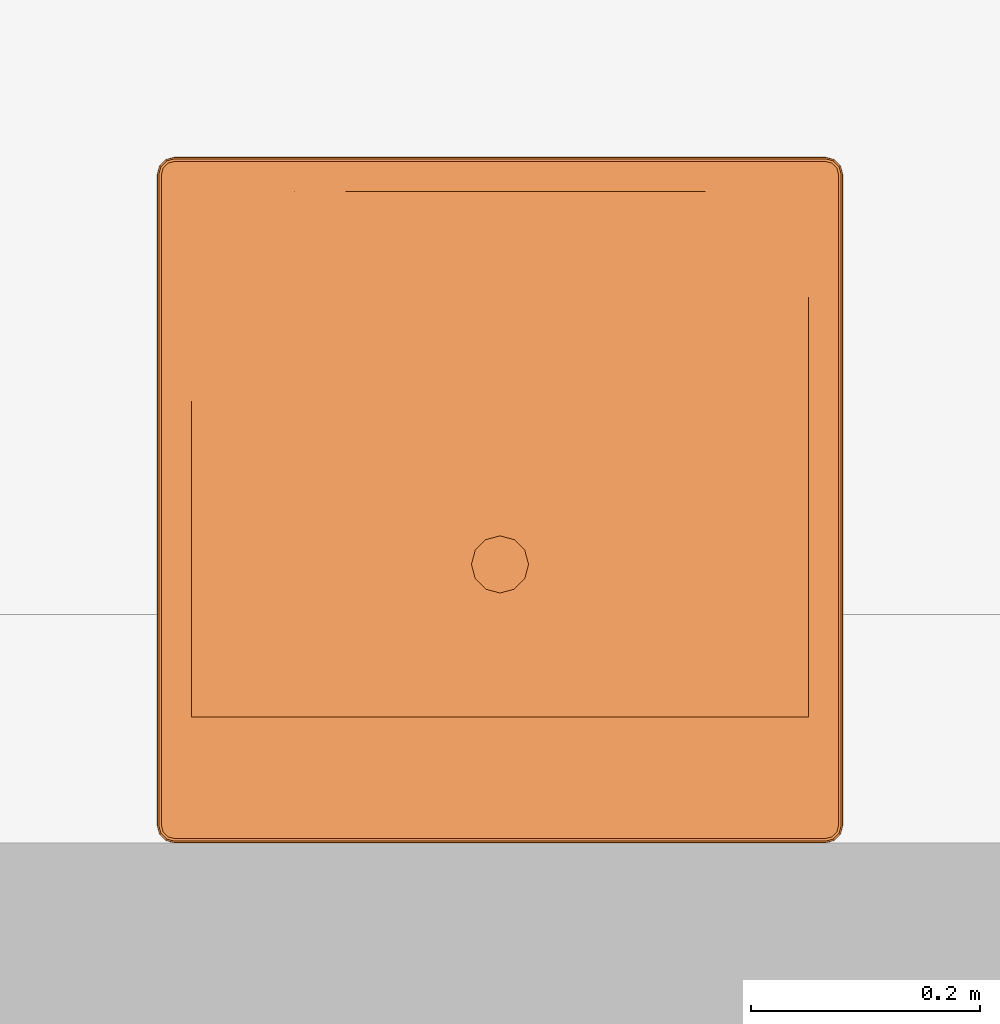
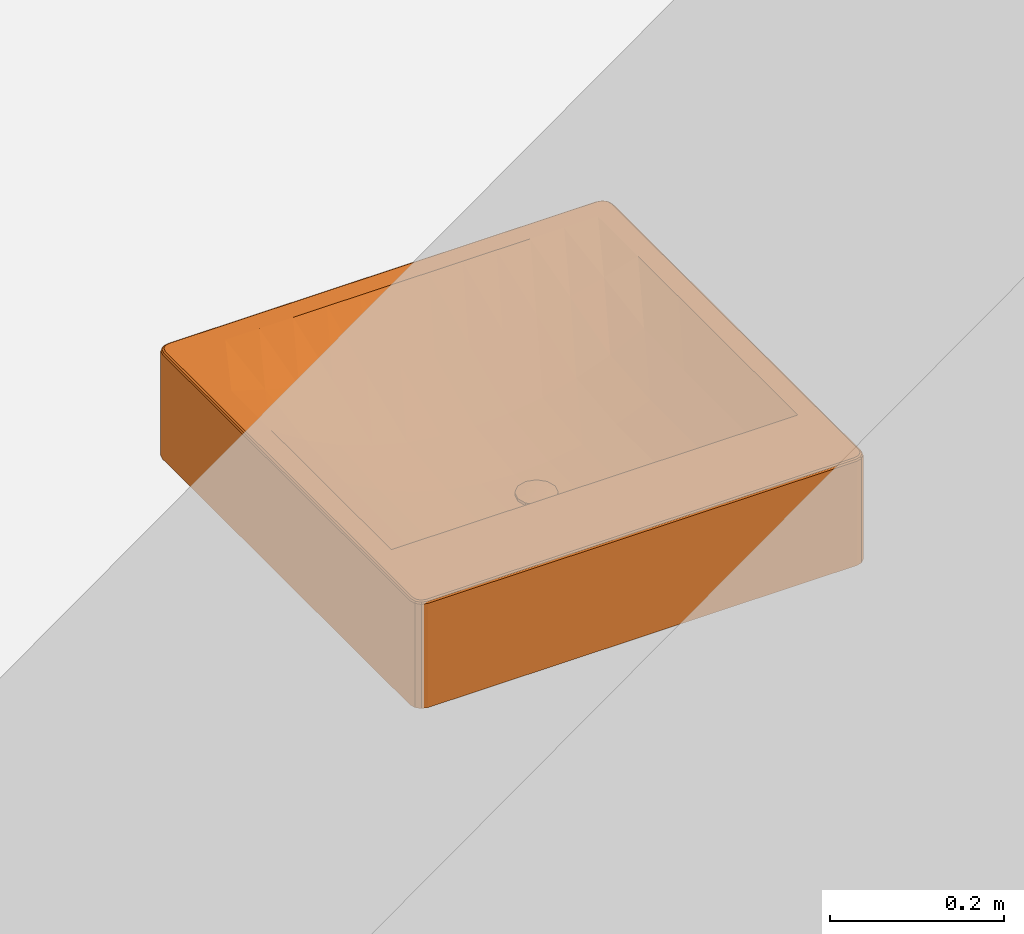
# One storey, part 63 of 64: 1 proxy.
"""IFC2X3 building model written with IfcOpenShell, lengths in metres."""

from ifc_helpers import new_model, entity, si_unit, converted_unit, derived_unit, direction, frame, origin, place, context, subcontext, project, spatial, faceted_brep, source, transform, mapped, material, type_object, type_shapes, element, save


model = new_model("IFC2X3")

# Units and contexts
model_context = context("Model", 3, precision=1e-05, world=origin(), true_north=direction((6.123031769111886e-17, 1.0)))
body_context = subcontext(model_context, "Body", "Model", "MODEL_VIEW")
ifc_project = project(units=[si_unit("LENGTHUNIT", "METRE"), si_unit("AREAUNIT", "SQUARE_METRE"), si_unit("VOLUMEUNIT", "CUBIC_METRE"), converted_unit("PLANEANGLEUNIT", "DEGREE", entity("IfcRatioMeasure", 0.017453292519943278), si_unit("PLANEANGLEUNIT", "RADIAN"), dimensions=[0, 0, 0, 0, 0, 0, 0]), si_unit("MASSUNIT", "GRAM", prefix="KILO"), derived_unit("MASSDENSITYUNIT", [(si_unit("MASSUNIT", "GRAM", prefix="KILO"), 1), (si_unit("LENGTHUNIT", "METRE"), -3)]), derived_unit("MOMENTOFINERTIAUNIT", [(si_unit("LENGTHUNIT", "METRE"), 4)]), si_unit("TIMEUNIT", "SECOND"), si_unit("FREQUENCYUNIT", "HERTZ"), si_unit("THERMODYNAMICTEMPERATUREUNIT", "DEGREE_CELSIUS"), derived_unit("THERMALTRANSMITTANCEUNIT", [(si_unit("MASSUNIT", "GRAM", prefix="KILO"), 1), (si_unit("THERMODYNAMICTEMPERATUREUNIT", "KELVIN"), -1), (si_unit("TIMEUNIT", "SECOND"), -3)]), derived_unit("THERMALCONDUCTANCEUNIT", [(si_unit("MASSUNIT", "GRAM", prefix="KILO"), 1), (si_unit("LENGTHUNIT", "METRE"), 1), (si_unit("THERMODYNAMICTEMPERATUREUNIT", "KELVIN"), -1), (si_unit("TIMEUNIT", "SECOND"), -3)]), derived_unit("VOLUMETRICFLOWRATEUNIT", [(si_unit("LENGTHUNIT", "METRE"), 3), (si_unit("TIMEUNIT", "SECOND"), -1)]), derived_unit("MASSFLOWRATEUNIT", [(si_unit("MASSUNIT", "GRAM", prefix="KILO"), 1), (si_unit("TIMEUNIT", "SECOND"), -1)]), derived_unit("ROTATIONALFREQUENCYUNIT", [(si_unit("TIMEUNIT", "SECOND"), -1)]), si_unit("ELECTRICCURRENTUNIT", "AMPERE"), si_unit("ELECTRICVOLTAGEUNIT", "VOLT"), si_unit("POWERUNIT", "WATT"), si_unit("FORCEUNIT", "NEWTON", prefix="KILO"), si_unit("ILLUMINANCEUNIT", "LUX"), si_unit("LUMINOUSFLUXUNIT", "LUMEN"), si_unit("LUMINOUSINTENSITYUNIT", "CANDELA"), derived_unit("USERDEFINED", [(si_unit("MASSUNIT", "GRAM", prefix="KILO"), -1), (si_unit("LENGTHUNIT", "METRE"), -2), (si_unit("TIMEUNIT", "SECOND"), 3), (si_unit("LUMINOUSFLUXUNIT", "LUMEN"), 1)]), derived_unit("USERDEFINED", [(si_unit("MASSUNIT", "GRAM", prefix="KILO"), 1), (si_unit("LENGTHUNIT", "METRE"), 3), (si_unit("TIMEUNIT", "SECOND"), -3), (si_unit("ELECTRICCURRENTUNIT", "AMPERE"), -2)]), derived_unit("USERDEFINED", [(si_unit("LENGTHUNIT", "METRE"), 2), (si_unit("TIMEUNIT", "SECOND"), -2)]), derived_unit("SOUNDPOWERUNIT", [(si_unit("MASSUNIT", "GRAM", prefix="KILO"), 1), (si_unit("LENGTHUNIT", "METRE"), 2), (si_unit("TIMEUNIT", "SECOND"), -3)]), derived_unit("SOUNDPRESSUREUNIT", [(si_unit("MASSUNIT", "GRAM", prefix="KILO"), 1), (si_unit("LENGTHUNIT", "METRE"), -1), (si_unit("TIMEUNIT", "SECOND"), -2)]), derived_unit("LINEARVELOCITYUNIT", [(si_unit("LENGTHUNIT", "METRE"), 1), (si_unit("TIMEUNIT", "SECOND"), -1)]), si_unit("PRESSUREUNIT", "PASCAL"), derived_unit("USERDEFINED", [(si_unit("LENGTHUNIT", "METRE"), -2), (si_unit("MASSUNIT", "GRAM", prefix="KILO"), 1), (si_unit("TIMEUNIT", "SECOND"), -2)]), derived_unit("LINEARFORCEUNIT", [(si_unit("MASSUNIT", "GRAM", prefix="KILO"), 1), (si_unit("LENGTHUNIT", "METRE"), 1), (si_unit("TIMEUNIT", "SECOND"), -2), (si_unit("LENGTHUNIT", "METRE"), -1)]), derived_unit("PLANARFORCEUNIT", [(si_unit("MASSUNIT", "GRAM", prefix="KILO"), 1), (si_unit("LENGTHUNIT", "METRE"), 1), (si_unit("TIMEUNIT", "SECOND"), -2), (si_unit("LENGTHUNIT", "METRE"), -2)]), derived_unit("SPECIFICHEATCAPACITYUNIT", [(si_unit("LENGTHUNIT", "METRE"), 2), (si_unit("TIMEUNIT", "SECOND"), -2), (si_unit("THERMODYNAMICTEMPERATUREUNIT", "KELVIN"), -1)]), derived_unit("VAPORPERMEABILITYUNIT", [(si_unit("TIMEUNIT", "SECOND"), 1), (si_unit("LENGTHUNIT", "METRE"), -1)]), derived_unit("DYNAMICVISCOSITYUNIT", [(si_unit("MASSUNIT", "GRAM", prefix="KILO"), 1), (si_unit("LENGTHUNIT", "METRE"), -1), (si_unit("TIMEUNIT", "SECOND"), -1)]), derived_unit("THERMALEXPANSIONCOEFFICIENTUNIT", [(si_unit("THERMODYNAMICTEMPERATUREUNIT", "KELVIN"), -1)])], contexts=[model_context])

# Site, building, storey
site_placement = place(None, origin())
site = spatial("IfcSite", under=ifc_project, at=site_placement, Name="Default", CompositionType="ELEMENT")
building_placement = place(site_placement, origin())
building = spatial("IfcBuilding", under=site, at=building_placement, CompositionType="ELEMENT")
storey_placement = place(building_placement, origin())
storey = spatial("IfcBuildingStorey", under=building, at=storey_placement, Name="REZ-DE-CHAUSSÉE", CompositionType="ELEMENT", Elevation=0.0)

# Proxy
ifc_material = material(Name="Déco - Céramique / Porcelaine")
building_element_proxy_type = type_object("IfcBuildingElementProxyType", Name="Symb-0001", PredefinedType="NOTDEFINED", material=ifc_material)
shared_shape = source(origin(), body_context, "Body", "Brep", [
    faceted_brep([(0.015000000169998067, 0.6000000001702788, 0.0), (0.5850000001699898, 0.6000000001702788, 0.0), (0.5925000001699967, 0.5979903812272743, 0.0), (0.5979903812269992, 0.5925000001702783, 0.0), (0.6000000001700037, 0.5850000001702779, 0.0), (0.6000000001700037, 0.015000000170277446, 0.0), (0.5979903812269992, 0.007500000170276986, 0.0), (0.5925000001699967, 0.0020096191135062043, 0.0), (0.5850000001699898, 0.0, 0.0), (0.015000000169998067, 0.0, 0.0), (0.007500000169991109, 0.0020096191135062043, 0.0), (0.002009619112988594, 0.007500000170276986, 0.0), (0.0, 0.015000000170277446, 0.0), (0.0, 0.5850000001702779, 0.0), (0.002009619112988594, 0.5925000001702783, 0.0), (0.007500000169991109, 0.5979903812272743, 0.0), (0.5700000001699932, 0.5700000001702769, 0.0), (0.030000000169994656, 0.5700000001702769, 0.0), (0.030000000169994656, 0.11000000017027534, 0.0), (0.5700000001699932, 0.11000000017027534, 0.0), (0.015000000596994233, 0.6000000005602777, 0.1450000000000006), (0.5849999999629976, 0.6000000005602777, 0.1450000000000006), (0.5925000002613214, 0.5979903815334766, 0.1450000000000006), (0.5979903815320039, 0.5925000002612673, 0.1450000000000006), (0.6000000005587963, 0.5849999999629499, 0.1450000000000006), (0.6000000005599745, 0.015000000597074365, 0.1450000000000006), (0.5979903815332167, 0.007500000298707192, 0.1450000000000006), (0.5925000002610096, 0.0020096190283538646, 0.1450000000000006), (0.5849999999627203, 0.0, 0.1450000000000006), (0.015000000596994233, 0.0, 0.1450000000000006), (0.0075000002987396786, 0.002009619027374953, 0.1450000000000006), (0.0020096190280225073, 0.007500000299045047, 0.1450000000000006), (0.0, 0.015000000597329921, 0.1450000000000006), (0.0, 0.5849999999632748, 0.1450000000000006), (0.0020096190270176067, 0.592500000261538, 0.1450000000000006), (0.007500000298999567, 0.5979903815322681, 0.1450000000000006), (0.5700000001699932, 0.5700000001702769, 0.14999999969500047), (0.030000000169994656, 0.5700000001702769, 0.14999999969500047), (0.030000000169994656, 0.11000000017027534, 0.14999999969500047), (0.5700000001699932, 0.11000000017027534, 0.14999999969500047), (0.015022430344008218, 0.5998296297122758, 0.14629409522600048), (0.5849775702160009, 0.5998296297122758, 0.14629409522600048), (0.5924118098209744, 0.597837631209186, 0.1462940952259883), (0.5978376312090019, 0.592411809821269, 0.14629409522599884), (0.5998296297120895, 0.5849775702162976, 0.14629409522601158), (0.5998296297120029, 0.015022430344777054, 0.14629409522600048), (0.5978376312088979, 0.007588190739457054, 0.1462940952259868), (0.5924118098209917, 0.00216236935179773, 0.1462940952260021), (0.5849775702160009, 0.0001703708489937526, 0.1462940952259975), (0.015022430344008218, 0.00017037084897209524, 0.14629409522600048), (0.007588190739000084, 0.0021623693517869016, 0.14629409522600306), (0.0021623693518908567, 0.007588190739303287, 0.14629409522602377), (0.00017037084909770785, 0.015022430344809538, 0.1462940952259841), (0.0001703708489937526, 0.5849775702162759, 0.14629409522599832), (0.002162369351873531, 0.5924118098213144, 0.14629409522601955), (0.007588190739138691, 0.5978376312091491, 0.14629409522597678), (0.5843417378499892, 0.004999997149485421, 0.14999999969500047), (0.5899118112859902, 0.006492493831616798, 0.14999999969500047), (0.5935075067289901, 0.01008818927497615, 0.14999999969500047), (0.5950000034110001, 0.015658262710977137, 0.14999999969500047), (0.5950000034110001, 0.5843417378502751, 0.14999999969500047), (0.5935075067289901, 0.5899118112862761, 0.14999999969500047), (0.5899118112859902, 0.593507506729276, 0.14999999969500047), (0.5843417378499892, 0.5950000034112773, 0.14999999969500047), (0.01565826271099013, 0.5950000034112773, 0.14999999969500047), (0.010088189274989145, 0.593507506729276, 0.14999999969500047), (0.00649249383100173, 0.5899118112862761, 0.14999999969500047), (0.004999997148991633, 0.5843417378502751, 0.14999999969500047), (0.004999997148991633, 0.015658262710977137, 0.14999999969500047), (0.00649249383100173, 0.01008818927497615, 0.14999999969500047), (0.010088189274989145, 0.006492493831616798, 0.14999999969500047), (0.01565826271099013, 0.004999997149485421, 0.14999999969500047), (0.01519280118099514, 0.598535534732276, 0.14853553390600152), (0.5848071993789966, 0.598535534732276, 0.14853553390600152), (0.5917419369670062, 0.5966773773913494, 0.1485355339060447), (0.5966773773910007, 0.591741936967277, 0.1485355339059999), (0.598535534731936, 0.5848071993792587, 0.14853553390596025), (0.5985355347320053, 0.015192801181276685, 0.14853553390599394), (0.5966773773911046, 0.008258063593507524, 0.14853553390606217), (0.5917419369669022, 0.003322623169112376, 0.14853553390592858), (0.5848071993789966, 0.0014644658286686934, 0.1485355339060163), (0.01519280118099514, 0.0014644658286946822, 0.14853553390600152), (0.008258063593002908, 0.003322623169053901, 0.14853553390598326), (0.0033226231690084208, 0.008258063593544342, 0.14853553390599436), (0.0014644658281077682, 0.015192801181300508, 0.1485355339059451), (0.001464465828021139, 0.584807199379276, 0.14853553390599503), (0.0033226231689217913, 0.591741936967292, 0.14853553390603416), (0.008258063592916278, 0.5966773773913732, 0.14853553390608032), (0.5905816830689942, 0.005332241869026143, 0.14982962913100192), (0.584512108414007, 0.003705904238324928, 0.1498296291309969), (0.5946677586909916, 0.009418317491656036, 0.1498296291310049), (0.5962940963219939, 0.015487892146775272, 0.14982962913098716), (0.5962940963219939, 0.5845121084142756, 0.14982962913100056), (0.5946677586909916, 0.5905816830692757, 0.14982962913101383), (0.5905816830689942, 0.5946677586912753, 0.1498296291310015), (0.584512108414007, 0.5962940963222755, 0.14982962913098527), (0.015487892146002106, 0.5962940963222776, 0.1498296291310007), (0.009418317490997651, 0.5946677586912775, 0.14982962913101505), (0.0053322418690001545, 0.5905816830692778, 0.14982962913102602), (0.003705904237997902, 0.5845121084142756, 0.1498296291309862), (0.003705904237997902, 0.015487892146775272, 0.14982962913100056), (0.0053322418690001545, 0.009418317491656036, 0.14982962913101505), (0.009418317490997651, 0.005332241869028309, 0.14982962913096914), (0.015487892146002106, 0.003705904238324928, 0.14982962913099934), (0.28750000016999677, 0.26527363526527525, 0.0), (0.2783493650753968, 0.2561230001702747, 0.0), (0.27500000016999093, 0.24362300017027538, 0.0), (0.2783493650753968, 0.23112300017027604, 0.0), (0.28750000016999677, 0.22197236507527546, 0.0), (0.30000000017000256, 0.21862300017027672, 0.0), (0.3125000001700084, 0.22197236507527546, 0.0), (0.3216506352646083, 0.23112300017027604, 0.0), (0.3250000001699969, 0.24362300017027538, 0.0), (0.3216506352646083, 0.2561230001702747, 0.0), (0.3125000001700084, 0.26527363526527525, 0.0), (0.30000000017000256, 0.26862300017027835, 0.0), (0.5700000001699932, 0.3860000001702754, 0.15000000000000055), (0.5700000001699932, 0.29400000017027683, 0.15000000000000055), (0.5700000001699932, 0.20200000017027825, 0.15000000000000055), (0.5700000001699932, 0.11000000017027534, 0.15000000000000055), (0.5700000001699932, 0.5700000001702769, 0.15000000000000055), (0.5700000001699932, 0.4780000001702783, 0.15000000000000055), (0.1650000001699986, 0.11000000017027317, 0.0726004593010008), (0.12000000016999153, 0.11000000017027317, 0.09112317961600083), (0.07500000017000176, 0.11000000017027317, 0.11638328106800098), (0.030000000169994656, 0.11000000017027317, 0.1500000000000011), (0.525000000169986, 0.11000000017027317, 0.1163832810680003), (0.48000000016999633, 0.11000000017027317, 0.09112317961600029), (0.43500000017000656, 0.11000000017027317, 0.07260045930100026), (0.3900000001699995, 0.11000000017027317, 0.05988876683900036), (0.3450000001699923, 0.11000000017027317, 0.05244994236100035), (0.30000000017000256, 0.11000000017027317, 0.050000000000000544), (0.25500000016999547, 0.11000000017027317, 0.052449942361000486), (0.21000000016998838, 0.11000000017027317, 0.05988876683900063), (0.030000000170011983, 0.29400000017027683, 0.15000000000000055), (0.030000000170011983, 0.3860000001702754, 0.15000000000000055), (0.030000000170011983, 0.4780000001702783, 0.15000000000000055), (0.030000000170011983, 0.5700000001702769, 0.15000000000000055), (0.030000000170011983, 0.20200000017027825, 0.15000000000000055), (0.43500000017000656, 0.5700000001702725, 0.15000000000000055), (0.48000000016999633, 0.5700000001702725, 0.15000000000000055), (0.525000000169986, 0.5700000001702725, 0.15000000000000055), (0.07500000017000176, 0.5700000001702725, 0.15000000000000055), (0.12000000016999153, 0.5700000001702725, 0.15000000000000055), (0.1650000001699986, 0.5700000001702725, 0.15000000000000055), (0.21000000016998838, 0.5700000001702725, 0.15000000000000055), (0.25500000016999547, 0.5700000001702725, 0.15000000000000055), (0.30000000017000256, 0.5700000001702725, 0.15000000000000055), (0.3450000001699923, 0.5700000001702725, 0.15000000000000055), (0.3900000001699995, 0.5700000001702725, 0.15000000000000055), (0.28750000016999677, 0.26527363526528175, 0.050680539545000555), (0.2783493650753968, 0.25612300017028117, 0.05117872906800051), (0.27500000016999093, 0.2436230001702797, 0.05136107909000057), (0.2783493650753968, 0.2311230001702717, 0.05117872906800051), (0.28750000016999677, 0.22197236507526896, 0.050680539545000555), (0.30000000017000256, 0.21862300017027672, 0.050000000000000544), (0.3125000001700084, 0.22197236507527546, 0.050680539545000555), (0.3216506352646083, 0.23112300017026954, 0.05117872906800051), (0.3250000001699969, 0.24362300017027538, 0.05136107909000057), (0.3216506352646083, 0.2561230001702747, 0.05117872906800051), (0.3125000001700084, 0.26527363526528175, 0.050680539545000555), (0.30000000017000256, 0.26862300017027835, 0.050000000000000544), (0.525000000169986, 0.29400000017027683, 0.11638328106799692), (0.525000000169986, 0.20200000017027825, 0.11638328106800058), (0.525000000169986, 0.4780000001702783, 0.13591688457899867), (0.525000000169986, 0.3860000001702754, 0.12084337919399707), (0.12000000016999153, 0.20200000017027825, 0.09112317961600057), (0.1650000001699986, 0.20200000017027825, 0.07260045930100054), (0.07500000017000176, 0.20200000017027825, 0.11638328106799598), (0.48000000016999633, 0.20200000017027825, 0.09112317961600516), (0.43500000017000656, 0.20200000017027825, 0.07260045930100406), (0.3900000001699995, 0.20200000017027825, 0.0598887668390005), (0.3450000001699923, 0.20200000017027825, 0.052449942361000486), (0.30000000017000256, 0.20200000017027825, 0.05), (0.25500000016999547, 0.20200000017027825, 0.052449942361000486), (0.21000000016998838, 0.20200000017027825, 0.0598887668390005), (0.07500000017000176, 0.3860000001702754, 0.12084337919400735), (0.07500000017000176, 0.4780000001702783, 0.13591688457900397), (0.07500000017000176, 0.29400000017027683, 0.11638328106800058), (0.43500000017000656, 0.4780000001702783, 0.11586509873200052), (0.48000000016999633, 0.4780000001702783, 0.12457661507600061), (0.12000000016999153, 0.4780000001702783, 0.12457661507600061), (0.1650000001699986, 0.4780000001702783, 0.11586509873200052), (0.21000000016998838, 0.4780000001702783, 0.10969896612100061), (0.25500000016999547, 0.4780000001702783, 0.10602133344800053), (0.30000000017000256, 0.4780000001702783, 0.10479908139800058), (0.3450000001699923, 0.4780000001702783, 0.10602133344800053), (0.3900000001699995, 0.4780000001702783, 0.10969896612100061), (0.25500000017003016, 0.29400000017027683, 0.052449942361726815), (0.30000000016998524, 0.29400000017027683, 0.04999999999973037), (0.3450000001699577, 0.29400000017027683, 0.05244994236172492), (0.48000000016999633, 0.29400000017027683, 0.09112317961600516), (0.12000000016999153, 0.29400000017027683, 0.09112317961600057), (0.1650000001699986, 0.29400000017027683, 0.07260045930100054), (0.43500000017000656, 0.29400000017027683, 0.07260045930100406), (0.3900000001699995, 0.29400000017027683, 0.0598887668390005), (0.21000000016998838, 0.29400000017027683, 0.0598887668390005), (0.30000000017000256, 0.3860000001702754, 0.06146040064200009), (0.3450000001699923, 0.3860000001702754, 0.06368647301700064), (0.48000000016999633, 0.3860000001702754, 0.09849465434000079), (0.1650000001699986, 0.3860000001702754, 0.08190448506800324), (0.12000000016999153, 0.3860000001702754, 0.09849465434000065), (0.43500000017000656, 0.3860000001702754, 0.08190448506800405), (0.3900000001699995, 0.3860000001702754, 0.07043120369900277), (0.25500000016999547, 0.3860000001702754, 0.0636864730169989), (0.21000000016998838, 0.3860000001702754, 0.070431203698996), (0.2783493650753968, 0.2561230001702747, 0.05000000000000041), (0.28750000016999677, 0.26527363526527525, 0.05000000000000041), (0.3125000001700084, 0.26527363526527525, 0.05000000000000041), (0.3216506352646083, 0.2561230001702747, 0.05000000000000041), (0.3250000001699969, 0.24362300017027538, 0.05000000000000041), (0.3216506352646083, 0.23112300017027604, 0.05000000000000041), (0.3125000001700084, 0.22197236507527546, 0.05000000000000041), (0.28750000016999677, 0.22197236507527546, 0.05000000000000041), (0.2783493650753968, 0.23112300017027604, 0.05000000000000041), (0.27500000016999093, 0.24362300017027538, 0.05000000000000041), (0.2783493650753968, 0.25612300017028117, 0.055000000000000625), (0.28750000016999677, 0.26527363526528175, 0.055000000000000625), (0.30000000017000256, 0.2686230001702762, 0.055000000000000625), (0.3125000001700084, 0.26527363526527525, 0.055000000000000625), (0.3216506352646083, 0.25612300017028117, 0.055000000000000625), (0.3250000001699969, 0.24362300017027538, 0.055000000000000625), (0.3216506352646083, 0.23112300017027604, 0.055000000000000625), (0.3125000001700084, 0.22197236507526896, 0.055000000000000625), (0.30000000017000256, 0.21862300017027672, 0.055000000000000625), (0.28750000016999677, 0.22197236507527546, 0.055000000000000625), (0.2783493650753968, 0.23112300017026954, 0.055000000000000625), (0.27500000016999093, 0.24362300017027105, 0.055000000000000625), (0.30000000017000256, 0.24362300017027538, 0.05700000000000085), (0.30000000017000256, 0.23100109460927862, 0.056497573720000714), (0.3063109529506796, 0.23269210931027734, 0.056497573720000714), (0.29368904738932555, 0.23269210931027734, 0.056497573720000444), (0.3109308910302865, 0.23731204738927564, 0.056497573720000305), (0.28906910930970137, 0.23731204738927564, 0.05649757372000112), (0.3126219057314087, 0.24362300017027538, 0.056497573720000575), (0.2873780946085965, 0.24362300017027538, 0.05649757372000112), (0.3109308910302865, 0.24993395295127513, 0.056497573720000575), (0.28906910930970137, 0.24993395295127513, 0.05649757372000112), (0.3063109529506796, 0.25455389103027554, 0.056497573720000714), (0.29368904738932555, 0.25455389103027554, 0.056497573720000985), (0.30000000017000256, 0.25624490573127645, 0.056497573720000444)], [[[0, 1, 2, 3, 4, 5, 6, 7, 8, 9, 10, 11, 12, 13, 14, 15], [16, 17, 18, 19]], [[0, 20, 21, 1]], [[1, 21, 22, 2]], [[2, 22, 23, 3]], [[3, 23, 24, 4]], [[4, 24, 25, 5]], [[5, 25, 26, 6]], [[6, 26, 27, 7]], [[7, 27, 28, 8]], [[8, 28, 29, 9]], [[9, 29, 30, 10]], [[10, 30, 31, 11]], [[11, 31, 32, 12]], [[12, 32, 33, 13]], [[13, 33, 34, 14]], [[14, 34, 35, 15]], [[15, 35, 20, 0]], [[36, 37, 17, 16]], [[37, 38, 18, 17]], [[38, 39, 19, 18]], [[39, 36, 16, 19]], [[20, 40, 41, 21]], [[21, 41, 42, 22]], [[22, 42, 43, 23]], [[23, 43, 44, 24]], [[24, 44, 45, 25]], [[25, 45, 46, 26]], [[26, 46, 47, 27]], [[27, 47, 48, 28]], [[28, 48, 49, 29]], [[29, 49, 50, 30]], [[30, 50, 51, 31]], [[31, 51, 52, 32]], [[32, 52, 53, 33]], [[33, 53, 54, 34]], [[34, 54, 55, 35]], [[35, 55, 40, 20]], [[56, 57, 58, 59, 60, 61, 62, 63, 64, 65, 66, 67, 68, 69, 70, 71], [36, 39, 38, 37]], [[40, 72, 73, 41]], [[41, 73, 74, 42]], [[42, 74, 75, 43]], [[43, 75, 76, 44]], [[44, 76, 77, 45]], [[45, 77, 78, 46]], [[46, 78, 79, 47]], [[47, 79, 80, 48]], [[48, 80, 81, 49]], [[49, 81, 82, 50]], [[50, 82, 83, 51]], [[51, 83, 84, 52]], [[52, 84, 85, 53]], [[53, 85, 86, 54]], [[54, 86, 87, 55]], [[55, 87, 72, 40]], [[88, 57, 56, 89]], [[90, 58, 57, 88]], [[91, 59, 58, 90]], [[92, 60, 59, 91]], [[93, 61, 60, 92]], [[94, 62, 61, 93]], [[95, 63, 62, 94]], [[96, 64, 63, 95]], [[97, 65, 64, 96]], [[98, 66, 65, 97]], [[99, 67, 66, 98]], [[100, 68, 67, 99]], [[101, 69, 68, 100]], [[102, 70, 69, 101]], [[103, 71, 70, 102]], [[89, 56, 71, 103]], [[72, 96, 95, 73]], [[73, 95, 94, 74]], [[74, 94, 93, 75]], [[75, 93, 92, 76]], [[76, 92, 91, 77]], [[77, 91, 90, 78]], [[78, 90, 88, 79]], [[79, 88, 89, 80]], [[80, 89, 103, 81]], [[81, 103, 102, 82]], [[82, 102, 101, 83]], [[83, 101, 100, 84]], [[84, 100, 99, 85]], [[85, 99, 98, 86]], [[86, 98, 97, 87]], [[87, 97, 96, 72]], [[16, 19, 18, 17], [104, 105, 106, 107, 108, 109, 110, 111, 112, 113, 114, 115]], [[116, 117, 118, 119, 19, 16, 120, 121]], [[122, 123, 124, 125, 18, 19, 119, 126, 127, 128, 129, 130, 131, 132, 133]], [[134, 135, 136, 137, 17, 18, 125, 138]], [[139, 140, 141, 120, 16, 17, 137, 142, 143, 144, 145, 146, 147, 148, 149]], [[150, 151, 105, 104]], [[151, 152, 106, 105]], [[152, 153, 107, 106]], [[153, 154, 108, 107]], [[154, 155, 109, 108]], [[155, 156, 110, 109]], [[156, 157, 111, 110]], [[157, 158, 112, 111]], [[158, 159, 113, 112]], [[159, 160, 114, 113]], [[160, 161, 115, 114]], [[161, 150, 104, 115]], [[116, 162, 117]], [[162, 163, 118, 117]], [[163, 126, 119, 118]], [[120, 164, 121]], [[121, 165, 116]], [[166, 123, 122, 167]], [[168, 124, 123, 166]], [[138, 125, 124, 168]], [[169, 127, 126, 163]], [[170, 128, 127, 169]], [[171, 129, 128, 170]], [[172, 130, 129, 171]], [[173, 131, 130, 172]], [[174, 132, 131, 173]], [[175, 133, 132, 174]], [[167, 122, 133, 175]], [[176, 135, 134]], [[177, 136, 135]], [[142, 137, 136]], [[134, 138, 168, 178]], [[140, 139, 179]], [[141, 140, 180]], [[120, 141, 164]], [[143, 142, 177]], [[144, 143, 181]], [[145, 144, 182]], [[146, 145, 183]], [[147, 146, 184]], [[148, 147, 185]], [[149, 148, 186]], [[139, 149, 187]], [[154, 155, 173, 174, 188, 189, 161, 150, 151, 152, 153]], [[156, 155, 173, 172, 190, 189, 161, 160, 159, 158, 157]], [[116, 165, 162]], [[191, 169, 163, 162]], [[121, 164, 165]], [[192, 166, 167, 193]], [[178, 168, 166, 192]], [[194, 170, 169, 191]], [[195, 171, 170, 194]], [[190, 172, 171, 195]], [[196, 175, 174, 188]], [[193, 167, 175, 196]], [[177, 135, 176]], [[176, 134, 178]], [[142, 136, 177]], [[139, 187, 179]], [[140, 179, 180]], [[141, 180, 164]], [[143, 177, 181]], [[144, 181, 182]], [[145, 182, 183]], [[146, 183, 184]], [[147, 184, 185]], [[148, 185, 186]], [[149, 186, 187]], [[197, 188, 189]], [[198, 189, 190]], [[165, 191, 162]], [[164, 199, 165]], [[200, 192, 193]], [[201, 178, 192]], [[199, 194, 191]], [[202, 195, 194]], [[203, 190, 195]], [[204, 196, 188]], [[205, 193, 196]], [[181, 177, 176]], [[201, 176, 178]], [[179, 187, 203]], [[180, 179, 202]], [[164, 180, 199]], [[182, 181, 201]], [[183, 182, 200]], [[184, 183, 205]], [[185, 184, 204]], [[186, 185, 197]], [[187, 186, 198]], [[197, 204, 188]], [[198, 197, 189]], [[203, 198, 190]], [[165, 199, 191]], [[200, 201, 192]], [[205, 200, 193]], [[199, 202, 194]], [[202, 203, 195]], [[204, 205, 196]], [[181, 176, 201]], [[187, 198, 203]], [[179, 203, 202]], [[180, 202, 199]], [[182, 201, 200]], [[183, 200, 205]], [[184, 205, 204]], [[185, 204, 197]], [[186, 197, 198]], [[206, 207, 161, 208, 209, 210, 211, 212, 155, 213, 214, 215]], [[207, 206, 216, 217]], [[161, 207, 217, 218]], [[208, 161, 218, 219]], [[209, 208, 219, 220]], [[210, 209, 220, 221]], [[211, 210, 221, 222]], [[212, 211, 222, 223]], [[155, 212, 223, 224]], [[213, 155, 224, 225]], [[214, 213, 225, 226]], [[215, 214, 226, 227]], [[206, 215, 227, 216]], [[216, 227, 226, 225, 224, 223, 222, 221, 220, 219, 218, 217]], [[228, 229, 230]], [[228, 231, 229]], [[230, 229, 224, 223]], [[228, 230, 232]], [[228, 233, 231]], [[229, 231, 225, 224]], [[232, 230, 223, 222]], [[228, 232, 234]], [[228, 235, 233]], [[231, 233, 226, 225]], [[234, 232, 222, 221]], [[228, 234, 236]], [[228, 237, 235]], [[233, 235, 227, 226]], [[236, 234, 221, 220]], [[228, 236, 238]], [[228, 239, 237]], [[235, 237, 216, 227]], [[238, 236, 220, 219]], [[228, 238, 240]], [[228, 240, 239]], [[237, 239, 217, 216]], [[240, 238, 219, 218]], [[239, 240, 218, 217]]]),
])
type_shapes(building_element_proxy_type, [shared_shape])
proxy_placement = place(storey_placement, frame((108.40075227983, 18.897209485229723, 0.6999999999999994)))
element("IfcBuildingElementProxy", 1, at=proxy_placement, inside=storey, type_object=building_element_proxy_type, material=ifc_material, Name="Symb-0001 105909:Symb-0001 105909", ObjectType="Symb-0001 105909:Symb-0001 105909", context=body_context, shape_type="MappedRepresentation", body=[
    mapped(shared_shape, transform((0.0, 0.0, 0.0), scale=1.0)),
])

save(model, "model.ifc")
